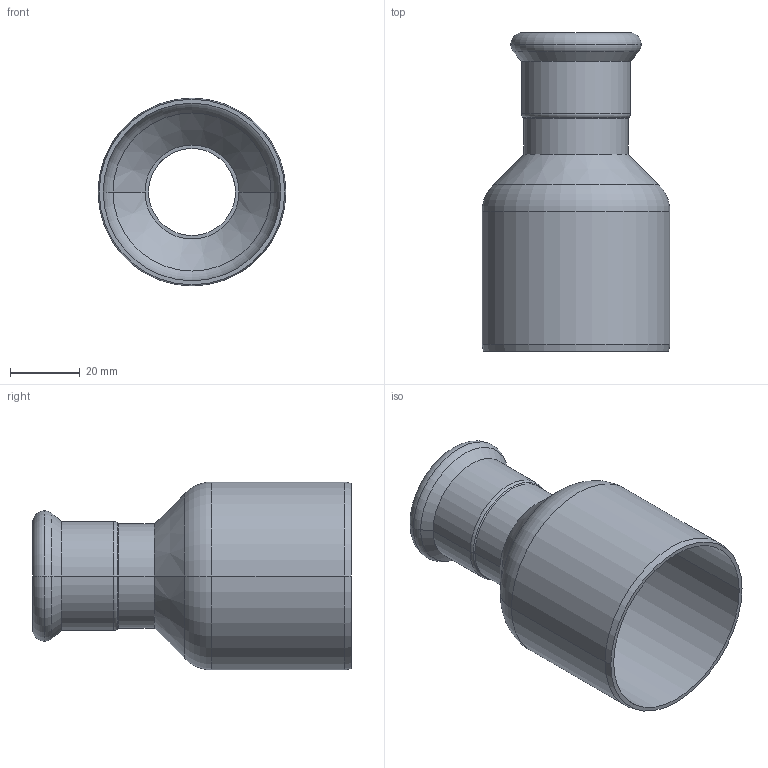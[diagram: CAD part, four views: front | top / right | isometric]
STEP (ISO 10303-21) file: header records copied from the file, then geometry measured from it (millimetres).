
FILE_DESCRIPTION(('CoCreate Modeling STEP Export'),'2;1');
FILE_NAME('C1407 28x54.stp','2014-11-07T16:33:42',(''),(''),'CoCreate Modeling STEP processor for AP214 (Solid Model)','CoCreate Modeling 17.00A 17-Jun-2010 (C) Parametric Technology GmbH','');
FILE_SCHEMA(('AUTOMOTIVE_DESIGN { 1 0 10303 214 1 1 1 1 }'));
Length unit declared in the file: millimetre
Products named in the file (2): C1407_28x54
Assembly tree (1 placements, depth 2):
  C1407_28x54
    C1407_28x54
Bounding box: 54 x 91.5 x 54 mm (x, y, z)
Volume: 21547.9 mm3; surface area: 26258.4 mm2
Topology: 1 solids, 1 shells, 41 faces, 83 edges, 47 vertices
Faces by surface type: cylinder 16, cone 10, torus 10, plane 5
Entity records: 908 total; most frequent: ORIENTED_EDGE 166, DIRECTION 140, CARTESIAN_POINT 130, EDGE_CURVE 83, AXIS2_PLACEMENT_3D 57, VERTEX_POINT 47, EDGE_LOOP 46, FACE_OUTER_BOUND 41
